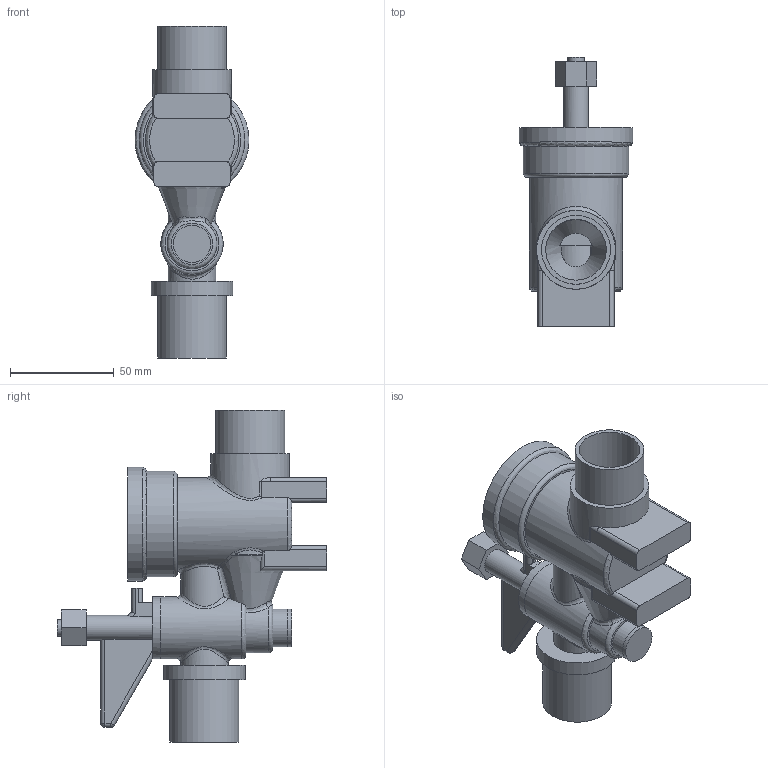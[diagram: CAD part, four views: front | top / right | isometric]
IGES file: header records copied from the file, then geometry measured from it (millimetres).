
Global section: file name: 03510-2-01.ipt; native system: Autodesk Inventor 2019; preprocessor: unknown; author: Lenora; date: 20210808.143609; units: millimetre
Bounding box: 54.84 x 130 x 160 mm (x, y, z)
Volume: 172664.1 mm3; surface area: 66450.3 mm2
Topology: 3 solids, 3 shells, 165 faces, 411 edges, 267 vertices
Faces by surface type: plane 63, cylinder 51, revolution 27, bspline 16, cone 4, sphere 4
Full cylindrical faces by diameter (mm): 8 x1, 12 x2, 14 x1, 18 x2, 23 x1, 24 x1, 30 x2, 33.249 x2, 38 x1, 39.249 x1, 50.845 x1, 54.845 x1
